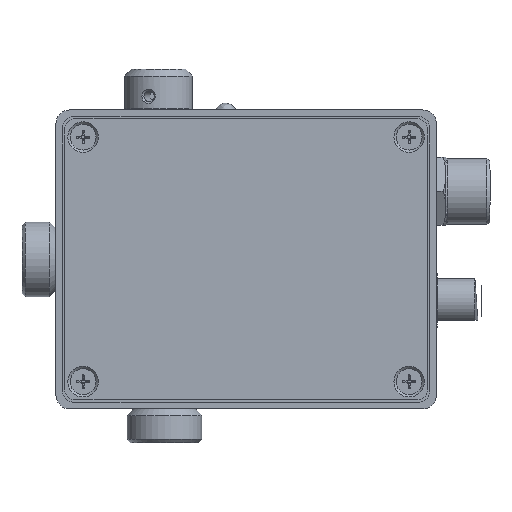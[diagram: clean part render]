
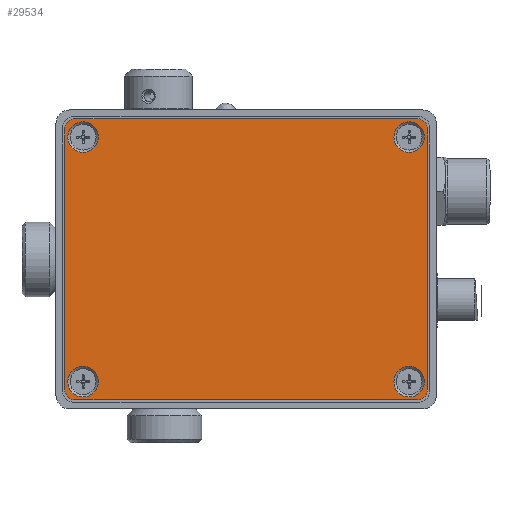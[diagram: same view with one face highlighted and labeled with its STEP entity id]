
A CAD part, front view. The second image highlights one B-rep face of the part: STEP entity #29534.
In plain terms, the highlighted planar face has unit normal (0, -1, 0).
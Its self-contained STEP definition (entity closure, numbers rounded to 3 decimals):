
#1537=FACE_BOUND('',#4449,.T.);
#1538=FACE_BOUND('',#4450,.T.);
#1539=FACE_BOUND('',#4451,.T.);
#1540=FACE_BOUND('',#4452,.T.);
#1763=PLANE('',#31485);
#2827=FACE_OUTER_BOUND('',#4448,.T.);
#4448=EDGE_LOOP('',(#20192,#20193,#20194,#20195,#20196,#20197,#20198,#20199));
#4449=EDGE_LOOP('',(#20200,#20201));
#4450=EDGE_LOOP('',(#20202,#20203));
#4451=EDGE_LOOP('',(#20204,#20205));
#4452=EDGE_LOOP('',(#20206,#20207));
#6408=LINE('',#41374,#9122);
#6411=LINE('',#41382,#9125);
#6414=LINE('',#41390,#9128);
#6417=LINE('',#41397,#9131);
#9122=VECTOR('',#34031,10.);
#9125=VECTOR('',#34040,10.);
#9128=VECTOR('',#34049,10.);
#9131=VECTOR('',#34058,10.);
#11803=CIRCLE('',#31458,2.25);
#11804=CIRCLE('',#31459,2.25);
#11807=CIRCLE('',#31463,2.25);
#11808=CIRCLE('',#31464,2.25);
#11809=CIRCLE('',#31466,2.25);
#11810=CIRCLE('',#31467,2.25);
#11813=CIRCLE('',#31471,2.25);
#11814=CIRCLE('',#31472,2.25);
#11815=CIRCLE('',#31474,1.5);
#11816=CIRCLE('',#31477,1.5);
#11817=CIRCLE('',#31480,1.5);
#11818=CIRCLE('',#31483,1.5);
#12634=VERTEX_POINT('',#41335);
#12635=VERTEX_POINT('',#41336);
#12638=VERTEX_POINT('',#41345);
#12639=VERTEX_POINT('',#41346);
#12640=VERTEX_POINT('',#41351);
#12641=VERTEX_POINT('',#41352);
#12644=VERTEX_POINT('',#41361);
#12645=VERTEX_POINT('',#41362);
#12646=VERTEX_POINT('',#41367);
#12647=VERTEX_POINT('',#41368);
#12648=VERTEX_POINT('',#41373);
#12649=VERTEX_POINT('',#41377);
#12650=VERTEX_POINT('',#41381);
#12651=VERTEX_POINT('',#41385);
#12652=VERTEX_POINT('',#41389);
#12653=VERTEX_POINT('',#41393);
#15589=EDGE_CURVE('',#12634,#12635,#11803,.T.);
#15590=EDGE_CURVE('',#12635,#12634,#11804,.T.);
#15594=EDGE_CURVE('',#12638,#12639,#11807,.T.);
#15595=EDGE_CURVE('',#12639,#12638,#11808,.T.);
#15597=EDGE_CURVE('',#12640,#12641,#11809,.T.);
#15598=EDGE_CURVE('',#12641,#12640,#11810,.T.);
#15602=EDGE_CURVE('',#12644,#12645,#11813,.T.);
#15603=EDGE_CURVE('',#12645,#12644,#11814,.T.);
#15605=EDGE_CURVE('',#12646,#12647,#11815,.T.);
#15608=EDGE_CURVE('',#12647,#12648,#6408,.T.);
#15610=EDGE_CURVE('',#12648,#12649,#11816,.T.);
#15612=EDGE_CURVE('',#12649,#12650,#6411,.T.);
#15614=EDGE_CURVE('',#12650,#12651,#11817,.T.);
#15616=EDGE_CURVE('',#12651,#12652,#6414,.T.);
#15618=EDGE_CURVE('',#12652,#12653,#11818,.T.);
#15620=EDGE_CURVE('',#12653,#12646,#6417,.T.);
#20192=ORIENTED_EDGE('',*,*,#15620,.T.);
#20193=ORIENTED_EDGE('',*,*,#15605,.T.);
#20194=ORIENTED_EDGE('',*,*,#15608,.T.);
#20195=ORIENTED_EDGE('',*,*,#15610,.T.);
#20196=ORIENTED_EDGE('',*,*,#15612,.T.);
#20197=ORIENTED_EDGE('',*,*,#15614,.T.);
#20198=ORIENTED_EDGE('',*,*,#15616,.T.);
#20199=ORIENTED_EDGE('',*,*,#15618,.T.);
#20200=ORIENTED_EDGE('',*,*,#15589,.T.);
#20201=ORIENTED_EDGE('',*,*,#15590,.T.);
#20202=ORIENTED_EDGE('',*,*,#15594,.T.);
#20203=ORIENTED_EDGE('',*,*,#15595,.T.);
#20204=ORIENTED_EDGE('',*,*,#15597,.T.);
#20205=ORIENTED_EDGE('',*,*,#15598,.T.);
#20206=ORIENTED_EDGE('',*,*,#15602,.T.);
#20207=ORIENTED_EDGE('',*,*,#15603,.T.);
#29534=ADVANCED_FACE('',(#2827,#1537,#1538,#1539,#1540),#1763,.T.);
#31458=AXIS2_PLACEMENT_3D('',#41337,#33989,#33990);
#31459=AXIS2_PLACEMENT_3D('',#41338,#33991,#33992);
#31463=AXIS2_PLACEMENT_3D('',#41347,#34000,#34001);
#31464=AXIS2_PLACEMENT_3D('',#41348,#34002,#34003);
#31466=AXIS2_PLACEMENT_3D('',#41353,#34007,#34008);
#31467=AXIS2_PLACEMENT_3D('',#41354,#34009,#34010);
#31471=AXIS2_PLACEMENT_3D('',#41363,#34018,#34019);
#31472=AXIS2_PLACEMENT_3D('',#41364,#34020,#34021);
#31474=AXIS2_PLACEMENT_3D('',#41369,#34025,#34026);
#31477=AXIS2_PLACEMENT_3D('',#41378,#34035,#34036);
#31480=AXIS2_PLACEMENT_3D('',#41386,#34044,#34045);
#31483=AXIS2_PLACEMENT_3D('',#41394,#34053,#34054);
#31485=AXIS2_PLACEMENT_3D('',#41398,#34059,#34060);
#33989=DIRECTION('center_axis',(0.,1.,0.));
#33990=DIRECTION('ref_axis',(0.,0.,
1.));
#33991=DIRECTION('center_axis',(0.,1.,0.));
#33992=DIRECTION('ref_axis',(0.,0.,
1.));
#34000=DIRECTION('center_axis',(0.,1.,0.));
#34001=DIRECTION('ref_axis',(0.,0.,
1.));
#34002=DIRECTION('center_axis',(0.,1.,0.));
#34003=DIRECTION('ref_axis',(0.,0.,
1.));
#34007=DIRECTION('center_axis',(0.,1.,0.));
#34008=DIRECTION('ref_axis',(0.,0.,
1.));
#34009=DIRECTION('center_axis',(0.,1.,0.));
#34010=DIRECTION('ref_axis',(0.,0.,
1.));
#34018=DIRECTION('center_axis',(0.,1.,0.));
#34019=DIRECTION('ref_axis',(0.,0.,
1.));
#34020=DIRECTION('center_axis',(0.,1.,0.));
#34021=DIRECTION('ref_axis',(0.,0.,
1.));
#34025=DIRECTION('center_axis',(0.,-1.,0.));
#34026=DIRECTION('ref_axis',(0.,0.,
-1.));
#34031=DIRECTION('',(-1.,0.,0.));
#34035=DIRECTION('center_axis',(0.,-1.,0.));
#34036=DIRECTION('ref_axis',(1.,0.,0.));
#34040=DIRECTION('',(0.,0.,-1.));
#34044=DIRECTION('center_axis',(0.,-1.,0.));
#34045=DIRECTION('ref_axis',(0.,0.,
1.));
#34049=DIRECTION('',(1.,0.,0.));
#34053=DIRECTION('center_axis',(0.,-1.,0.));
#34054=DIRECTION('ref_axis',(-1.,0.,0.));
#34058=DIRECTION('',(0.,0.,1.));
#34059=DIRECTION('center_axis',(0.,-1.,0.));
#34060=DIRECTION('ref_axis',(1.,0.,0.));
#41335=CARTESIAN_POINT('',(-11.163,-37.913,9.013));
#41336=CARTESIAN_POINT('',(-11.163,-37.913,4.513));
#41337=CARTESIAN_POINT('Origin',(-11.163,-37.913,6.763));
#41338=CARTESIAN_POINT('Origin',(-11.163,-37.913,6.763));
#41345=CARTESIAN_POINT('',(-11.163,-37.913,45.013));
#41346=CARTESIAN_POINT('',(-11.163,-37.913,40.513));
#41347=CARTESIAN_POINT('Origin',(-11.163,-37.913,42.763));
#41348=CARTESIAN_POINT('Origin',(-11.163,-37.913,42.763));
#41351=CARTESIAN_POINT('',(36.837,-37.913,9.013));
#41352=CARTESIAN_POINT('',(36.837,-37.913,4.513));
#41353=CARTESIAN_POINT('Origin',(36.837,-37.913,6.763));
#41354=CARTESIAN_POINT('Origin',(36.837,-37.913,6.763));
#41361=CARTESIAN_POINT('',(36.837,-37.913,45.013));
#41362=CARTESIAN_POINT('',(36.837,-37.913,40.513));
#41363=CARTESIAN_POINT('Origin',(36.837,-37.913,42.763));
#41364=CARTESIAN_POINT('Origin',(36.837,-37.913,42.763));
#41367=CARTESIAN_POINT('',(39.537,-37.913,43.963));
#41368=CARTESIAN_POINT('',(38.037,-37.913,45.463));
#41369=CARTESIAN_POINT('Origin',(38.037,-37.913,43.963));
#41373=CARTESIAN_POINT('',(-12.363,-37.913,45.463));
#41374=CARTESIAN_POINT('',(38.037,-37.913,45.463));
#41377=CARTESIAN_POINT('',(-13.863,-37.913,43.963));
#41378=CARTESIAN_POINT('Origin',(-12.363,-37.913,43.963));
#41381=CARTESIAN_POINT('',(-13.863,-37.913,5.563));
#41382=CARTESIAN_POINT('',(-13.863,-37.913,43.963));
#41385=CARTESIAN_POINT('',(-12.363,-37.913,4.063));
#41386=CARTESIAN_POINT('Origin',(-12.363,-37.913,5.563));
#41389=CARTESIAN_POINT('',(38.037,-37.913,4.063));
#41390=CARTESIAN_POINT('',(-12.363,-37.913,4.063));
#41393=CARTESIAN_POINT('',(39.537,-37.913,5.563));
#41394=CARTESIAN_POINT('Origin',(38.037,-37.913,5.563));
#41397=CARTESIAN_POINT('',(39.537,-37.913,5.563));
#41398=CARTESIAN_POINT('Origin',(12.837,-37.913,24.763));
